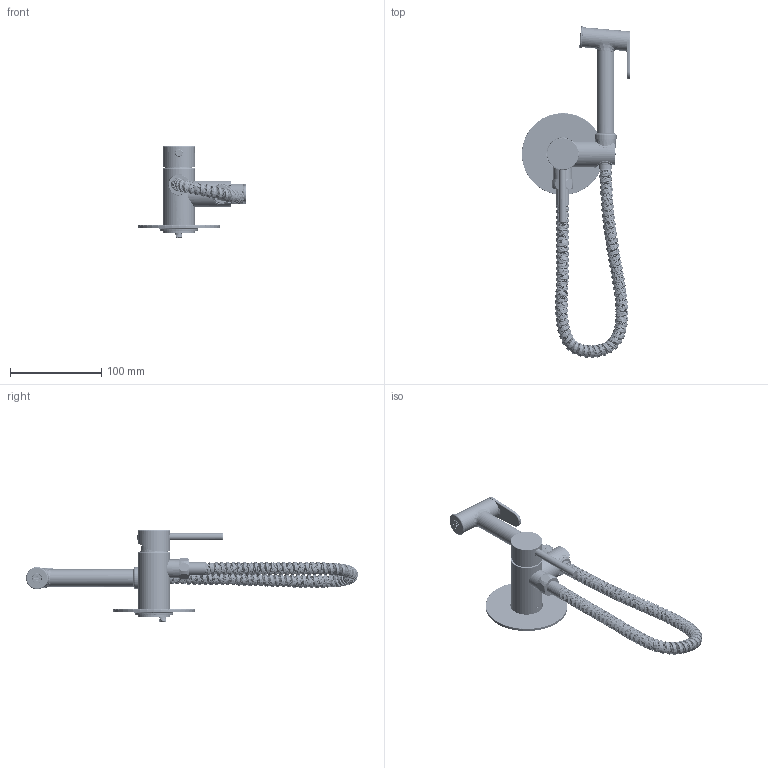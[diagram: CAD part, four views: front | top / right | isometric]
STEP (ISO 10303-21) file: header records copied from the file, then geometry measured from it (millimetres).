
FILE_DESCRIPTION((''),'2;1');
FILE_NAME('PT-829902-3D-OL_ASM','2024-06-20T08:52:26',('GL-JISHU1'),(''),'CREO PARAMETRIC BY PTC INC, 2021063','CREO PARAMETRIC BY PTC INC, 2021063','');
FILE_SCHEMA(('AUTOMOTIVE_DESIGN { 1 0 10303 214 1 1 1 1 }'));
Length unit declared in the file: millimetre
Products named in the file (42): 4ZT-66318-1-AJJ_1; 4JT-001170-AJJ_1; 4JT-001171-AJJ_1; 5ZT-66318-ACR_ASM_1_ASM; 3MB-001065-KXG_1; 3MB-001065-1-KXG_1; 3MB-001065-KCR_ASM_1_ASM; 3FX-001012-MAA_1_1; 3FX-001012-MAA_1_2; 3FX-001012-MAA_1_ASM; 3JQ-001552-NAA_1; 4YG-001022-AJJ_1; 5ZG-010019-ACR_1; 3BS-66318A-HCR_1; 3LS-001801-JAA_1; 3LS-001022-JAA_1; 5HZ-001013-ACR_1; 3LS-001296-JAA_1; 3SJ-001039-MAA_1; 3LS-001064-JAA_1; 3SN-001006-NAA_1; 3RG-001046-JCR_1; 3SJ-001123-MAA_1; 3ZT-PQ01-HCR_1; 3WK-001019-MCR_1; 3JQ-001549-NAA_1; 3TH-001003-JAA_1; 4JT-001294-AJJ_1; 3BS-PQ01-HCR_1; 3JQ-001085-NAA_1; 4JT-001295-AJJ_1; 3JQ-001581-NAA_1; 4TG-001046-JJJ_1; 5JT-001296-ACR_1; 3JQ-001580-NAA_1; 3SJ-001122-MAA_1; 3JQ-001050-NAA_AF0_1; 3JQ-001582-NAA_1; 3LS-001809-JAA_1; PT-PQ01_ASM_1_ASM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
Assembly tree (42 placements, depth 4):
  PT-829902-3D-OL_ASM
    GL-66318A_ASM_4_ASM
      5ZT-66318-ACR_ASM_1_ASM
        4ZT-66318-1-AJJ_1
        4JT-001170-AJJ_1
        4JT-001171-AJJ_1
      3MB-001065-KCR_ASM_1_ASM
        3MB-001065-KXG_1
        3MB-001065-1-KXG_1
      3FX-001012-MAA_1_ASM
        3FX-001012-MAA_1_1
        3FX-001012-MAA_1_2
      3JQ-001552-NAA_1
      4YG-001022-AJJ_1
      5ZG-010019-ACR_1
      3BS-66318A-HCR_1
      3LS-001801-JAA_1
      3LS-001022-JAA_1
      5HZ-001013-ACR_1
      3LS-001296-JAA_1
      3SJ-001039-MAA_1
      3LS-001064-JAA_1
      3SN-001006-NAA_1
      3RG-001046-JCR_1
      PT-PQ01_ASM_1_ASM
        3SJ-001123-MAA_1
        3ZT-PQ01-HCR_1
        3WK-001019-MCR_1
        3JQ-001549-NAA_1
        3TH-001003-JAA_1
        4JT-001294-AJJ_1
        3BS-PQ01-HCR_1
        3JQ-001085-NAA_1
        4JT-001295-AJJ_1
        3JQ-001581-NAA_1
        4TG-001046-JJJ_1
        5JT-001296-ACR_1
        3JQ-001580-NAA_1
        3SJ-001122-MAA_1
        3JQ-001050-NAA_AF0_1
        3JQ-001582-NAA_1  x2
        3LS-001809-JAA_1
Bounding box: 118.96 x 364.5 x 100.2 mm (x, y, z)
Volume: 227647.6 mm3; surface area: 149810 mm2
Topology: 37 solids, 39 shells, 1894 faces, 5420 edges, 3636 vertices
Faces by surface type: plane 647, cylinder 646, torus 209, cone 199, bspline 166, sphere 18, extrusion 9
Entity records: 207384 total; most frequent: CARTESIAN_POINT 148716, ORIENTED_EDGE 10776, DIRECTION 10001, EDGE_CURVE 5388, AXIS2_PLACEMENT_3D 3989, VERTEX_POINT 3632, CIRCLE 2149, EDGE_LOOP 2100
